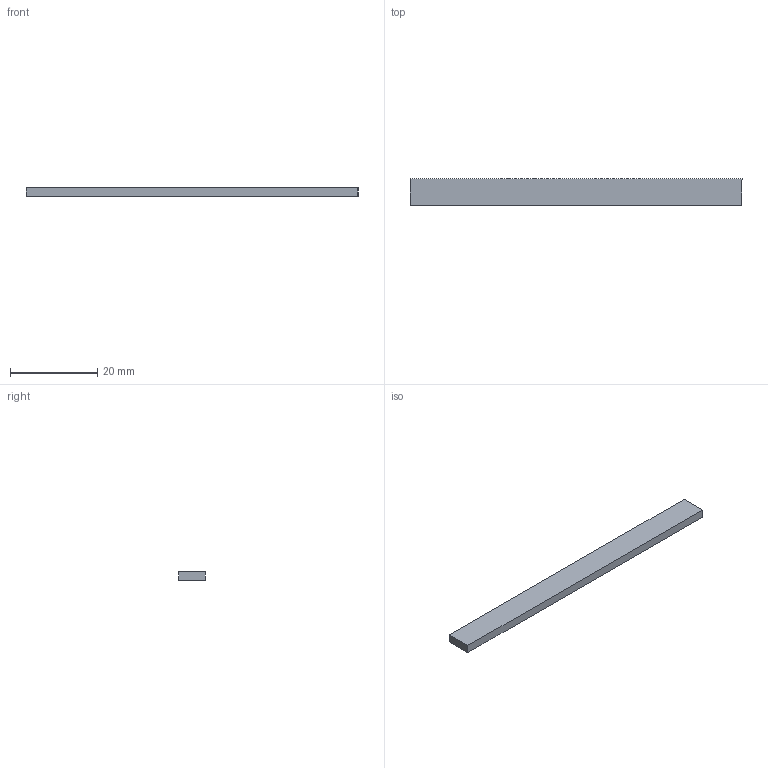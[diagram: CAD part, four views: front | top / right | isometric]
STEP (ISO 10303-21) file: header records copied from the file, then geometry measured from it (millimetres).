
FILE_DESCRIPTION(/* description */ ('Foam'),/* implementation_level */ '2;1');
FILE_NAME(/* name */ 'Z:\Werkstatt Server\Projekte\Atlas\Entwicklung u. Konstruktion\Konstruktion\CAD Daten\ITkPixToolV2.0\Flex Jig\Step Files\ITPTv2.02.00.03.stp',/* time_stamp */ '2021-11-04T12:01:29+01:00',/* author */ ('Tim Kanngießer'),/* organization */ (''),/* preprocessor_version */ 'ST-DEVELOPER v18.1',/* originating_system */ 'Autodesk Inventor 2022',/* authorisation */ '');
FILE_SCHEMA (('AUTOMOTIVE_DESIGN { 1 0 10303 214 3 1 1 }'));
Length unit declared in the file: millimetre
Products named in the file (1): ITPTv2.02.00.03
Bounding box: 76 x 6 x 2 mm (x, y, z)
Volume: 912 mm3; surface area: 1240 mm2
Topology: 1 solids, 1 shells, 6 faces, 12 edges, 8 vertices
Faces by surface type: plane 6
Entity records: 206 total; most frequent: CARTESIAN_POINT 27, DIRECTION 26, ORIENTED_EDGE 24, LINE 12, VECTOR 12, EDGE_CURVE 12, VERTEX_POINT 8, AXIS2_PLACEMENT_3D 7
